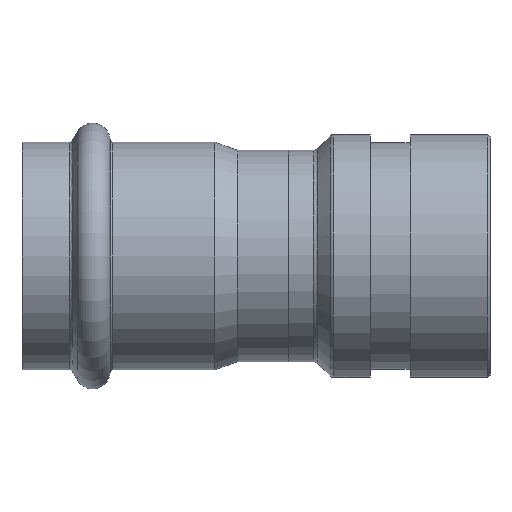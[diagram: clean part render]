
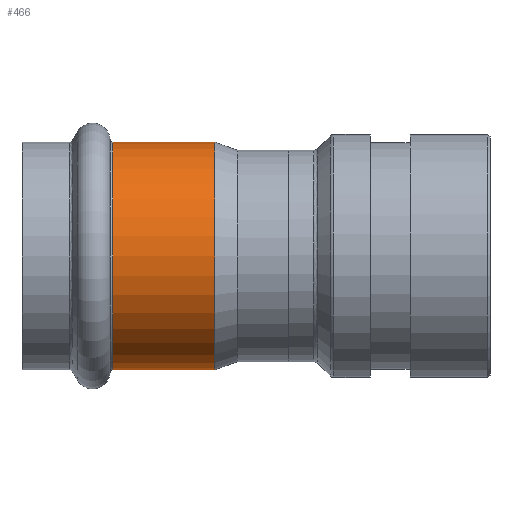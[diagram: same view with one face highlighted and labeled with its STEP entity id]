
A CAD part, front view. The second image highlights one B-rep face of the part: STEP entity #466.
In plain terms, the highlighted cylindrical face has radius 22.65 mm (diameter 45.3 mm), a full revolution.
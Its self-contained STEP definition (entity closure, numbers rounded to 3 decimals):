
#435=CARTESIAN_POINT('',(-35.008,22.65,0.));
#436=VERTEX_POINT('',#435);
#437=CARTESIAN_POINT('',(-35.008,0.0,0.0));
#438=DIRECTION('',(-1.0,0.0,0.0));
#439=DIRECTION('',(0.0,-1.0,0.0));
#440=AXIS2_PLACEMENT_3D('',#437,#438,#439);
#441=CIRCLE('',#440,22.65);
#442=EDGE_CURVE('',#436,#436,#441,.T.);
#447=CARTESIAN_POINT('',(-25.122,0.0,0.0));
#448=DIRECTION('',(1.0,0.0,0.0));
#449=DIRECTION('',(0.0,1.0,0.0));
#450=AXIS2_PLACEMENT_3D('',#447,#448,#449);
#451=CYLINDRICAL_SURFACE('',#450,22.65);
#452=CARTESIAN_POINT('',(-14.736,22.65,0.0));
#453=VERTEX_POINT('',#452);
#454=CARTESIAN_POINT('',(-14.736,0.0,0.0));
#455=DIRECTION('',(1.0,0.0,0.0));
#456=DIRECTION('',(0.0,1.0,0.0));
#457=AXIS2_PLACEMENT_3D('',#454,#455,#456);
#458=CIRCLE('',#457,22.65);
#459=EDGE_CURVE('',#453,#453,#458,.T.);
#460=ORIENTED_EDGE('',*,*,#459,.F.);
#461=EDGE_LOOP('',(#460));
#462=FACE_OUTER_BOUND('',#461,.T.);
#463=ORIENTED_EDGE('',*,*,#442,.F.);
#464=EDGE_LOOP('',(#463));
#465=FACE_BOUND('',#464,.T.);
#466=ADVANCED_FACE('',(#462,#465),#451,.T.);
